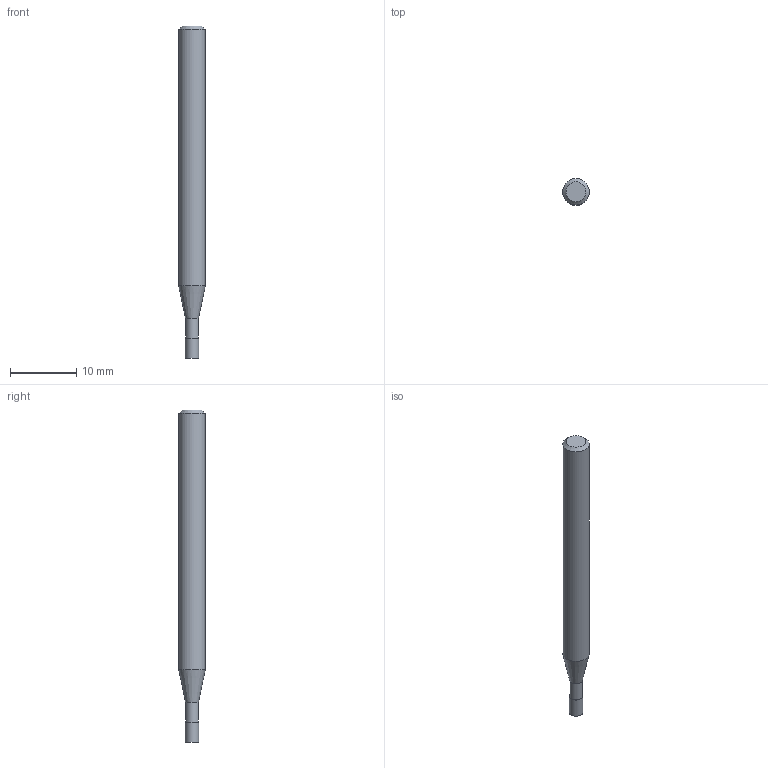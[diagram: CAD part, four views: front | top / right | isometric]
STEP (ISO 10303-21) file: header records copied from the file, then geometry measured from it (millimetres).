
FILE_DESCRIPTION((''),'2;1');
FILE_NAME('C:\Users\nsx150\AppData\Local\Temp\Mastercam 2021\17T8Q8S9EB\TEMP.step','2021-04-21T16:15:36',(''),(''),'STEP Write','Mastercam 2021 ... CNC Software, Inc.','');
FILE_SCHEMA(('AUTOMOTIVE_DESIGN'));
Length unit declared in the file: millimetre
Products named in the file (1): None
Bounding box: 4 x 4 x 50 mm (x, y, z)
Volume: 543.8 mm3; surface area: 593.2 mm2
Topology: 2 solids, 2 shells, 9 faces, 12 edges, 7 vertices
Faces by surface type: plane 4, cylinder 3, cone 2
Full cylindrical faces by diameter (mm): 1.94 x1, 2 x1, 4 x1
Entity records: 211 total; most frequent: DIRECTION 36, CARTESIAN_POINT 25, AXIS2_PLACEMENT_3D 18, ORIENTED_EDGE 14, EDGE_LOOP 14, STYLED_ITEM 12, ADVANCED_FACE 9, FACE_BOUND 8
